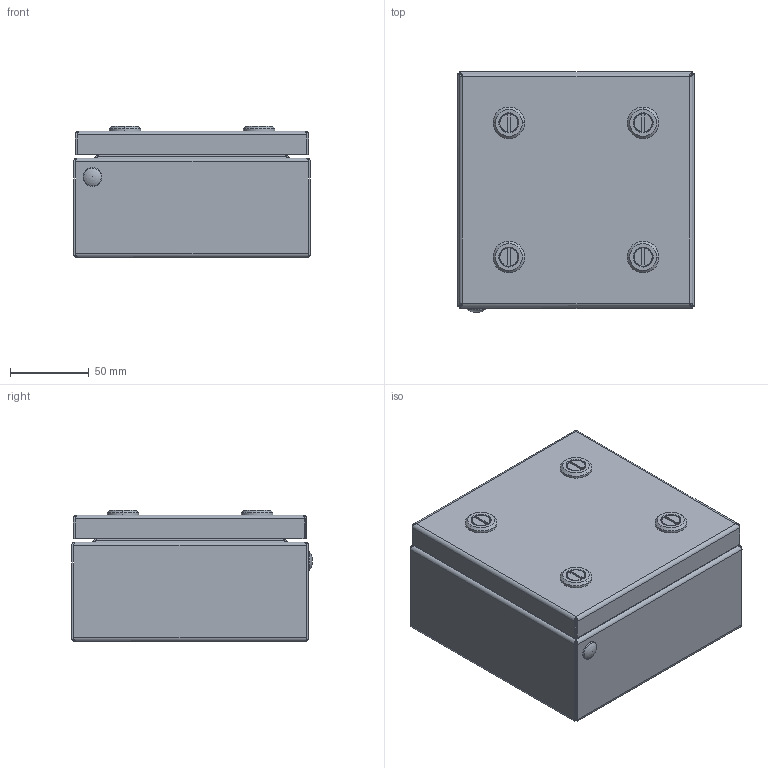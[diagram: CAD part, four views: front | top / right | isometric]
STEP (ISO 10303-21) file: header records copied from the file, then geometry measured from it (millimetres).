
FILE_DESCRIPTION (( 'STEP AP214' ), '1' );
FILE_NAME ('BCS 15.15.08 Êîðîáêà.STEP', '2025-07-14T07:18:13', ( '' ), ( '' ), 'SwSTEP 2.0', 'SolidWorks 2019', '' );
FILE_SCHEMA (( 'AUTOMOTIVE_DESIGN' ));
Length unit declared in the file: millimetre
Products named in the file (28): Çàìîê Ìîäóëü 845-2-06; 220_9103_00_00000; Øïèëüêà Ì6õ13; ﾇ瑟鶴 1022-U9; BCS X.002 ﾊ煇鳫_BCS 15.002 癌ｮｭ鞣･ｩｭ; Ãàéêà 1022-U9; 220_9103_00_00000_3; BCS X.Y.08.01.001 暑痫篑_BCS 15.15.08.01.001 姰喁汜; 220_9103_00_00000_5; DIN 07.Y DIN-ðåéêà_DIN 07.125 DIN-à¥©ª ; ßçû÷îê 1022-08; 妈眚 襦祛磬疱玎栝_4,8x11; 220_9103_00_00000_7; BCS X.Y.08.01.000 ÑÁ Êîðïóñ ñâàðíîé_BCS 15.15.08.01.000 Š®à¯ãá á¢ à­®©; BCS X.Y.02.001 署赅_BCS 15.15.02.001 娻腓獱; Essentra_d9.3_055009300003; BCS 15.15.08 Êîðîáêà; BCS X.Y.02.000 署赅_BCS 15.15.02.000 娻腓獱
Assembly tree (48 placements, depth 4):
  BCS 15.15.08 Êîðîáêà
    BCS X.Y.08.01.000 ÑÁ Êîðïóñ ñâàðíîé_BCS 15.15.08.01.000 Š®à¯ãá á¢ à­®©
      BCS X.Y.08.01.001 暑痫篑_BCS 15.15.08.01.001 姰喁汜
      BCS X.002 ﾊ煇鳫_BCS 15.002 癌ｮｭ鞣･ｩｭ  x2
      Øïèëüêà Ì6õ13
    BCS X.Y.02.000 署赅_BCS 15.15.02.000 娻腓獱
      BCS X.Y.02.001 署赅_BCS 15.15.02.001 娻腓獱
      Øïèëüêà Ì6õ13
    Çàìîê Ìîäóëü 845-2-06
      ﾇ瑟鶴 1022-U9
        ﾇ瑟鶴 1022-U9
        Ãàéêà 1022-U9
      220_9103_00_00000
        220_9103_00_00000_3
        220_9103_00_00000_5
        220_9103_00_00000_7
      ßçû÷îê 1022-08
    Çàìîê Ìîäóëü 845-2-06
      ﾇ瑟鶴 1022-U9
        ﾇ瑟鶴 1022-U9
        Ãàéêà 1022-U9
      220_9103_00_00000
        220_9103_00_00000_3
        220_9103_00_00000_5
        220_9103_00_00000_7
      ßçû÷îê 1022-08
    Çàìîê Ìîäóëü 845-2-06
      ﾇ瑟鶴 1022-U9
        ﾇ瑟鶴 1022-U9
        Ãàéêà 1022-U9
      220_9103_00_00000
        220_9103_00_00000_3
        220_9103_00_00000_5
        220_9103_00_00000_7
      ßçû÷îê 1022-08
    Çàìîê Ìîäóëü 845-2-06
      ﾇ瑟鶴 1022-U9
        ﾇ瑟鶴 1022-U9
        Ãàéêà 1022-U9
      220_9103_00_00000
        220_9103_00_00000_3
        220_9103_00_00000_5
        220_9103_00_00000_7
      ßçû÷îê 1022-08
    DIN 07.Y DIN-ðåéêà_DIN 07.125 DIN-à¥©ª 
    妈眚 襦祛磬疱玎栝_4,8x11  x2
    Essentra_d9.3_055009300003
Bounding box: 150 x 152.5 x 83 mm (x, y, z)
Volume: 170369.3 mm3; surface area: 274098.2 mm2
Topology: 35 solids, 35 shells, 1819 faces, 4457 edges, 2777 vertices
Faces by surface type: plane 1034, cylinder 494, cone 112, bspline 110, torus 52, sphere 17
Entity records: 33279 total; most frequent: CARTESIAN_POINT 12206, ORIENTED_EDGE 4016, DIRECTION 3742, EDGE_CURVE 2008, AXIS2_PLACEMENT_3D 1296, VERTEX_POINT 1236, VECTOR 1150, LINE 1150
